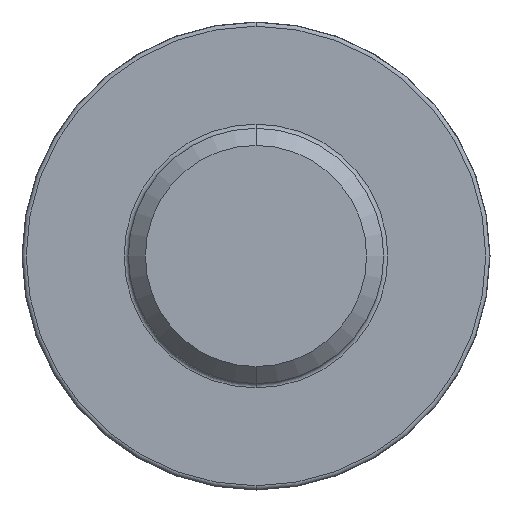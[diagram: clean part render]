
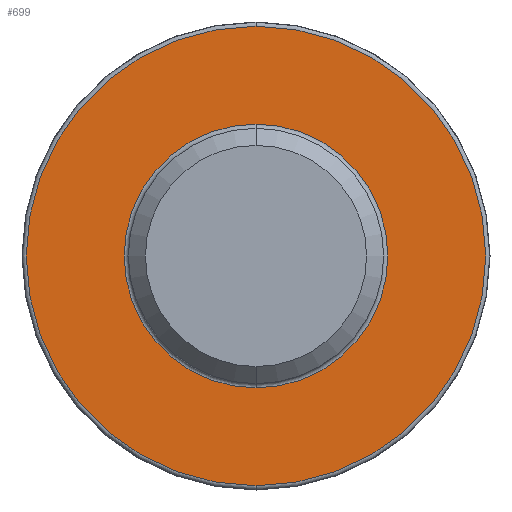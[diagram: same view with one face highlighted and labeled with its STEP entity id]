
A CAD part, front view. The second image highlights one B-rep face of the part: STEP entity #699.
In plain terms, the highlighted planar face has unit normal (0, -1, 0).
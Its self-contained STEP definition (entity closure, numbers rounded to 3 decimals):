
#8 = DIRECTION ( 'NONE',  ( 0., 0., 1. ) ) ;
#54 = VERTEX_POINT ( 'NONE', #762 ) ;
#61 = FACE_OUTER_BOUND ( 'NONE', #582, .T. ) ;
#62 = EDGE_CURVE ( 'NONE', #873, #741, #278, .T. ) ;
#82 = AXIS2_PLACEMENT_3D ( 'NONE', #833, #402, #211 ) ;
#87 = DIRECTION ( 'NONE',  ( 0., 1., 0. ) ) ;
#107 = CARTESIAN_POINT ( 'NONE',  ( 0., -1.6, 1.55 ) ) ;
#121 = CARTESIAN_POINT ( 'NONE',  ( 0., -1.6, 0. ) ) ;
#137 = DIRECTION ( 'NONE',  ( 0., 1., 0. ) ) ;
#159 = ORIENTED_EDGE ( 'NONE', *, *, #62, .T. ) ;
#180 = AXIS2_PLACEMENT_3D ( 'NONE', #546, #87, #8 ) ;
#205 = CARTESIAN_POINT ( 'NONE',  ( 0., -1.6, 0. ) ) ;
#211 = DIRECTION ( 'NONE',  ( 0., 0., 1. ) ) ;
#269 = CARTESIAN_POINT ( 'NONE',  ( 0., -1.6, 0. ) ) ;
#278 = CIRCLE ( 'NONE', #539, 2.7 ) ;
#383 = DIRECTION ( 'NONE',  ( 0., 0., 1. ) ) ;
#402 = DIRECTION ( 'NONE',  ( 0., -1., 0. ) ) ;
#405 = FACE_BOUND ( 'NONE', #859, .T. ) ;
#433 = VERTEX_POINT ( 'NONE', #107 ) ;
#439 = CARTESIAN_POINT ( 'NONE',  ( 0., -1.6, -2.7 ) ) ;
#455 = CIRCLE ( 'NONE', #746, 1.55 ) ;
#468 = CIRCLE ( 'NONE', #82, 2.7 ) ;
#482 = DIRECTION ( 'NONE',  ( 0., 1., 0. ) ) ;
#500 = ORIENTED_EDGE ( 'NONE', *, *, #786, .T. ) ;
#530 = EDGE_CURVE ( 'NONE', #741, #873, #468, .T. ) ;
#539 = AXIS2_PLACEMENT_3D ( 'NONE', #269, #571, #823 ) ;
#546 = CARTESIAN_POINT ( 'NONE',  ( 1.5, -1.6, 0. ) ) ;
#571 = DIRECTION ( 'NONE',  ( 0., -1., 0. ) ) ;
#582 = EDGE_LOOP ( 'NONE', ( #780, #159 ) ) ;
#591 = CIRCLE ( 'NONE', #742, 1.55 ) ;
#635 = PLANE ( 'NONE',  #180 ) ;
#693 = EDGE_CURVE ( 'NONE', #433, #54, #455, .T. ) ;
#694 = DIRECTION ( 'NONE',  ( 0., 0., 1. ) ) ;
#699 = ADVANCED_FACE ( 'NONE', ( #405, #61 ), #635, .F. ) ;
#741 = VERTEX_POINT ( 'NONE', #820 ) ;
#742 = AXIS2_PLACEMENT_3D ( 'NONE', #205, #482, #694 ) ;
#746 = AXIS2_PLACEMENT_3D ( 'NONE', #121, #137, #383 ) ;
#762 = CARTESIAN_POINT ( 'NONE',  ( 0., -1.6, -1.55 ) ) ;
#780 = ORIENTED_EDGE ( 'NONE', *, *, #530, .T. ) ;
#786 = EDGE_CURVE ( 'NONE', #54, #433, #591, .T. ) ;
#820 = CARTESIAN_POINT ( 'NONE',  ( 0., -1.6, 2.7 ) ) ;
#823 = DIRECTION ( 'NONE',  ( 0., 0., 1. ) ) ;
#833 = CARTESIAN_POINT ( 'NONE',  ( 0., -1.6, 0. ) ) ;
#859 = EDGE_LOOP ( 'NONE', ( #862, #500 ) ) ;
#862 = ORIENTED_EDGE ( 'NONE', *, *, #693, .T. ) ;
#873 = VERTEX_POINT ( 'NONE', #439 ) ;
